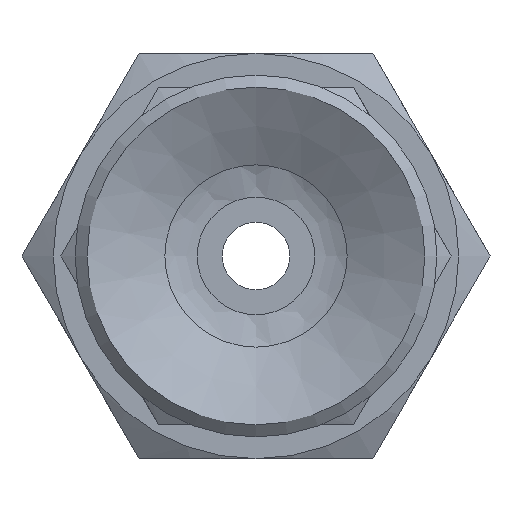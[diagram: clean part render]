
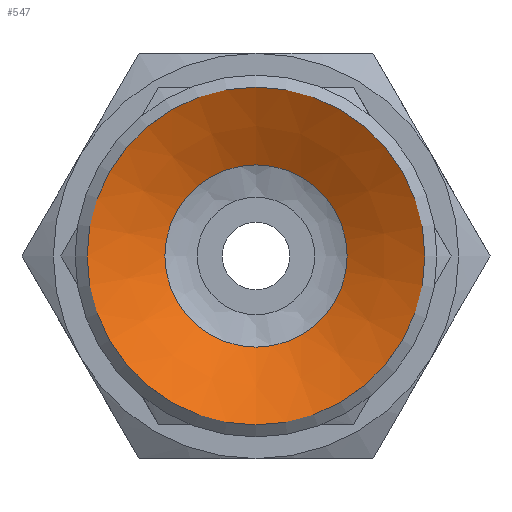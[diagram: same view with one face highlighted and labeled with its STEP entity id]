
A CAD part, front view. The second image highlights one B-rep face of the part: STEP entity #547.
In plain terms, the highlighted conical face has half-angle 61.39 degrees and reference radius 2.25 mm.
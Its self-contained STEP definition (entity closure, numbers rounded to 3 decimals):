
#547=ADVANCED_FACE('',(#799,#800),#801,.F.);
#799=FACE_BOUND('',#1096,.T.);
#800=FACE_OUTER_BOUND('',#1097,.T.);
#801=CONICAL_SURFACE('',#1098,2.25,1.071);
#1096=EDGE_LOOP('',(#1816));
#1097=EDGE_LOOP('',(#1817));
#1098=AXIS2_PLACEMENT_3D('',#1818,#1819,#1820);
#1816=ORIENTED_EDGE('',*,*,#2139,.T.);
#1817=ORIENTED_EDGE('',*,*,#2134,.T.);
#1818=CARTESIAN_POINT('',(0.0,1.5,0.0));
#1819=DIRECTION('',(-0.0,-1.0,0.));
#1820=DIRECTION('',(0.0,0.,-1.0));
#2134=EDGE_CURVE('',#2457,#2457,#2458,.T.);
#2139=EDGE_CURVE('',#2467,#2467,#2468,.T.);
#2457=VERTEX_POINT('',#3157);
#2458=CIRCLE('',#3158,5.);
#2467=VERTEX_POINT('',#3167);
#2468=CIRCLE('',#3168,2.698);
#3157=CARTESIAN_POINT('',(0.0,0.,-5.));
#3158=AXIS2_PLACEMENT_3D('',#3490,#3491,#3492);
#3167=CARTESIAN_POINT('',(0.0,1.256,-2.698));
#3168=AXIS2_PLACEMENT_3D('',#3505,#3506,#3507);
#3490=CARTESIAN_POINT('',(0.0,0.0,0.0));
#3491=DIRECTION('',(0.0,-1.0,0.));
#3492=DIRECTION('',(0.0,0.,-1.0));
#3505=CARTESIAN_POINT('',(0.0,1.256,0.0));
#3506=DIRECTION('',(0.0,1.0,0.));
#3507=DIRECTION('',(0.0,0.,-1.0));
